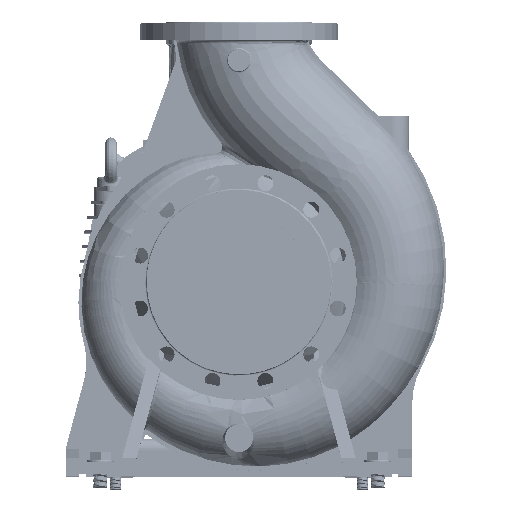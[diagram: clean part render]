
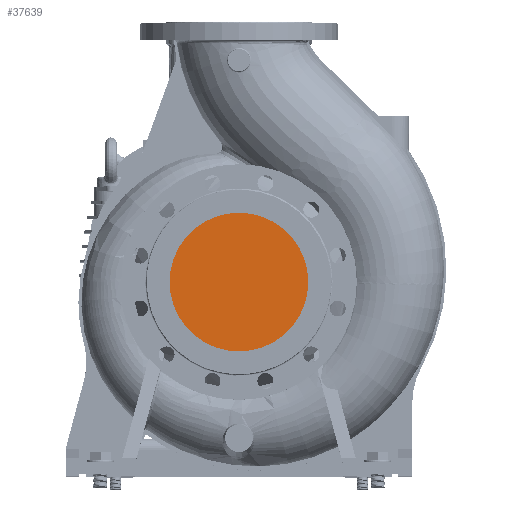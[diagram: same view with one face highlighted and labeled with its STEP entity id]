
A CAD part, top view. The second image highlights one B-rep face of the part: STEP entity #37639.
In plain terms, the highlighted planar face has unit normal (0, 0, 1).
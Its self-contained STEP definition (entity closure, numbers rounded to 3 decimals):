
#472 = AXIS2_PLACEMENT_3D ( 'NONE', #173293, #161443, #130586 ) ;
#10100 = DIRECTION ( 'NONE',  ( 1., 0., 0. ) ) ;
#13225 = VERTEX_POINT ( 'NONE', #15975 ) ;
#15975 = CARTESIAN_POINT ( 'NONE',  ( 100., 0., 155. ) ) ;
#19691 = DIRECTION ( 'NONE',  ( 1., 0., 0. ) ) ;
#19921 = EDGE_CURVE ( 'NONE', #73804, #13225, #173491, .T. ) ;
#22502 = AXIS2_PLACEMENT_3D ( 'NONE', #144148, #45147, #19691 ) ;
#30177 = CARTESIAN_POINT ( 'NONE',  ( -100., 0., 155. ) ) ;
#34439 = EDGE_CURVE ( 'NONE', #13225, #73804, #85383, .T. ) ;
#37639 = ADVANCED_FACE ( 'NONE', ( #89718 ), #174189, .T. ) ;
#45147 = DIRECTION ( 'NONE',  ( 0., 0., -1. ) ) ;
#55427 = CARTESIAN_POINT ( 'NONE',  ( 0., 0., 155. ) ) ;
#59892 = ORIENTED_EDGE ( 'NONE', *, *, #34439, .F. ) ;
#61948 = EDGE_LOOP ( 'NONE', ( #59892, #175947 ) ) ;
#73804 = VERTEX_POINT ( 'NONE', #30177 ) ;
#85383 = CIRCLE ( 'NONE', #120165, 100. ) ;
#89718 = FACE_OUTER_BOUND ( 'NONE', #61948, .T. ) ;
#120165 = AXIS2_PLACEMENT_3D ( 'NONE', #55427, #164474, #10100 ) ;
#130586 = DIRECTION ( 'NONE',  ( 1., 0., 0. ) ) ;
#144148 = CARTESIAN_POINT ( 'NONE',  ( 0., 0., 155. ) ) ;
#161443 = DIRECTION ( 'NONE',  ( 0., 0., 1. ) ) ;
#164474 = DIRECTION ( 'NONE',  ( 0., 0., -1. ) ) ;
#173293 = CARTESIAN_POINT ( 'NONE',  ( -101.2, -101.2, 155. ) ) ;
#173491 = CIRCLE ( 'NONE', #22502, 100. ) ;
#174189 = PLANE ( 'NONE',  #472 ) ;
#175947 = ORIENTED_EDGE ( 'NONE', *, *, #19921, .F. ) ;
